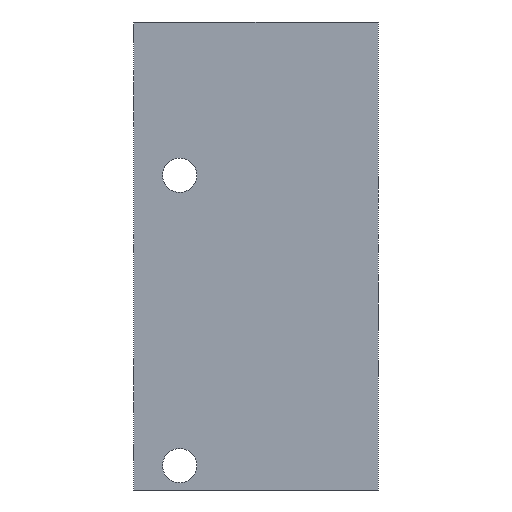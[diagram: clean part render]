
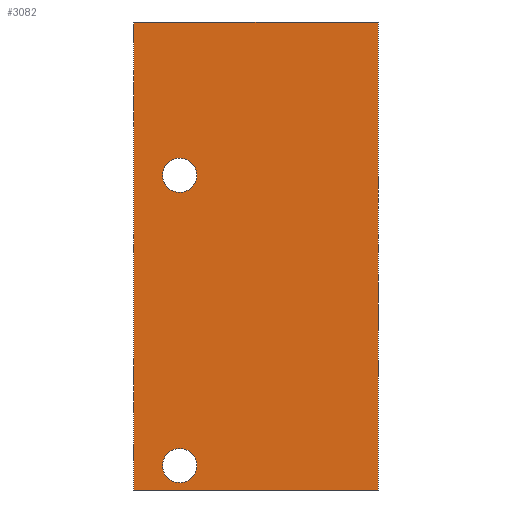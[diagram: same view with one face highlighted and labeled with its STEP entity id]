
A CAD part, front view. The second image highlights one B-rep face of the part: STEP entity #3082.
In plain terms, the highlighted planar face has unit normal (0, -1, 0).
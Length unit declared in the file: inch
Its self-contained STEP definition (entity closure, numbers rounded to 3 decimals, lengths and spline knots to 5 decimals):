
#133=CIRCLE('',#3263,0.14);
#135=CIRCLE('',#3266,0.14);
#293=FACE_BOUND('',#821,.T.);
#294=FACE_BOUND('',#822,.T.);
#295=FACE_BOUND('',#823,.T.);
#821=EDGE_LOOP('',(#2569));
#822=EDGE_LOOP('',(#2570));
#823=EDGE_LOOP('',(#2571,#2572,#2573,#2574));
#1086=LINE('',#5100,#1286);
#1131=LINE('',#5452,#1331);
#1134=LINE('',#5466,#1334);
#1135=LINE('',#5509,#1335);
#1286=VECTOR('',#3689,3.828);
#1331=VECTOR('',#3884,2.);
#1334=VECTOR('',#3899,2.);
#1335=VECTOR('',#3958,3.828);
#1469=VERTEX_POINT('',#5093);
#1472=VERTEX_POINT('',#5098);
#1526=VERTEX_POINT('',#5358);
#1528=VERTEX_POINT('',#5363);
#1537=VERTEX_POINT('',#5450);
#1542=VERTEX_POINT('',#5463);
#1812=EDGE_CURVE('',#1472,#1469,#1086,.T.);
#1880=EDGE_CURVE('',#1526,#1526,#133,.T.);
#1882=EDGE_CURVE('',#1528,#1528,#135,.T.);
#1894=EDGE_CURVE('',#1537,#1472,#1131,.T.);
#1900=EDGE_CURVE('',#1542,#1469,#1134,.T.);
#1914=EDGE_CURVE('',#1537,#1542,#1135,.T.);
#2569=ORIENTED_EDGE('',*,*,#1880,.T.);
#2570=ORIENTED_EDGE('',*,*,#1882,.T.);
#2571=ORIENTED_EDGE('',*,*,#1900,.T.);
#2572=ORIENTED_EDGE('',*,*,#1812,.F.);
#2573=ORIENTED_EDGE('',*,*,#1894,.F.);
#2574=ORIENTED_EDGE('',*,*,#1914,.T.);
#2776=PLANE('',#3313);
#3082=ADVANCED_FACE('',(#293,#294,#295),#2776,.T.);
#3263=AXIS2_PLACEMENT_3D('',#5359,#3852,#3853);
#3266=AXIS2_PLACEMENT_3D('',#5364,#3858,#3859);
#3313=AXIS2_PLACEMENT_3D('',#5511,#3960,#3961);
#3689=DIRECTION('',(0.,0.,1.));
#3852=DIRECTION('center_axis',(0.,1.,0.));
#3853=DIRECTION('ref_axis',(1.,0.,0.));
#3858=DIRECTION('center_axis',(0.,1.,0.));
#3859=DIRECTION('ref_axis',(1.,0.,0.));
#3884=DIRECTION('',(-1.,0.,0.));
#3899=DIRECTION('',(-1.,0.,0.));
#3958=DIRECTION('',(0.,0.,1.));
#3960=DIRECTION('center_axis',(0.,-1.,0.));
#3961=DIRECTION('ref_axis',(0.,0.,-1.));
#5093=CARTESIAN_POINT('',(-1.21875,-0.75,3.828));
#5098=CARTESIAN_POINT('',(-1.21875,-0.75,0.));
#5100=CARTESIAN_POINT('',(-1.21875,-0.75,0.));
#5358=CARTESIAN_POINT('',(-0.70375,-0.75,2.575));
#5359=CARTESIAN_POINT('Origin',(-0.84375,-0.75,2.575));
#5363=CARTESIAN_POINT('',(-0.70375,-0.75,0.2));
#5364=CARTESIAN_POINT('Origin',(-0.84375,-0.75,0.2));
#5450=CARTESIAN_POINT('',(0.78125,-0.75,0.));
#5452=CARTESIAN_POINT('',(0.78125,-0.75,0.));
#5463=CARTESIAN_POINT('',(0.78125,-0.75,3.828));
#5466=CARTESIAN_POINT('',(0.78125,-0.75,3.828));
#5509=CARTESIAN_POINT('',(0.78125,-0.75,0.));
#5511=CARTESIAN_POINT('Origin',(0.78125,-0.75,0.));
